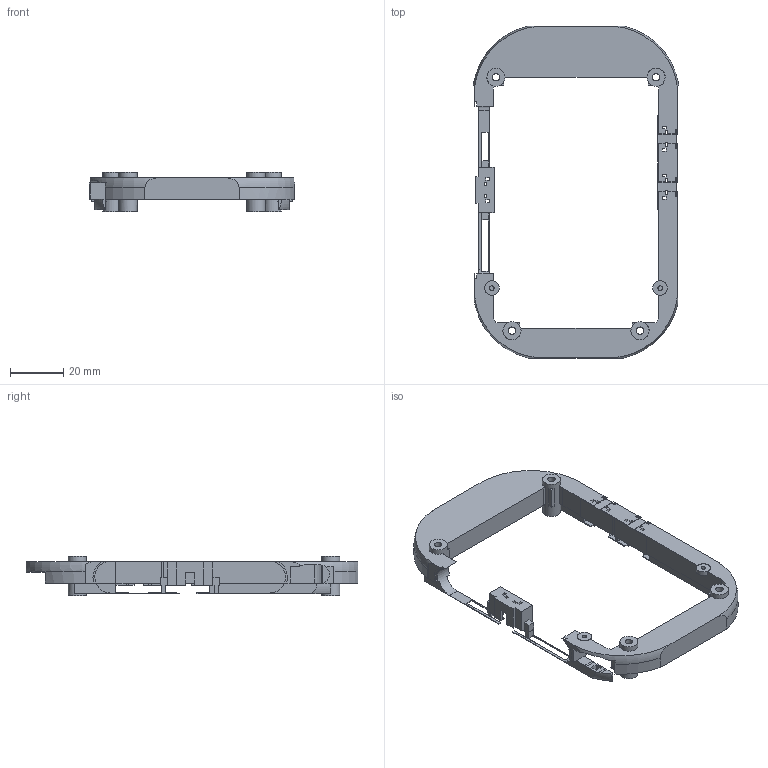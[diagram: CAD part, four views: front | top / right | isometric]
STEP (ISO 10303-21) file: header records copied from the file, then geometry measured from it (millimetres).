
FILE_DESCRIPTION(('Open CASCADE Model'),'2;1');
FILE_NAME('Open CASCADE Shape Model','2026-09-08T16:14:21',('Author'),( 'Open CASCADE'),'Open CASCADE STEP processor 7.7','Open CASCADE 7.7' ,'Unknown');
FILE_SCHEMA(('AUTOMOTIVE_DESIGN { 1 0 10303 214 1 1 1 1 }'));
Length unit declared in the file: millimetre
Products named in the file (1): Open CASCADE STEP translator 7.7 16
Bounding box: 77 x 124.4 x 14.7 mm (x, y, z)
Volume: 19647.2 mm3; surface area: 13970.2 mm2
Topology: 1 solids, 1 shells, 356 faces, 1080 edges, 719 vertices
Faces by surface type: plane 290, cylinder 60, torus 6
Full cylindrical faces by diameter (mm): 1.7 x8, 2.8 x4, 5.4 x2, 6.8 x4
Entity records: 26748 total; most frequent: CARTESIAN_POINT 6145, DIRECTION 3550, LINE 2348, VECTOR 2348, ORIENTED_EDGE 2160, PCURVE 2160, DEFINITIONAL_REPRESENTATION 2160, EDGE_CURVE 1080
